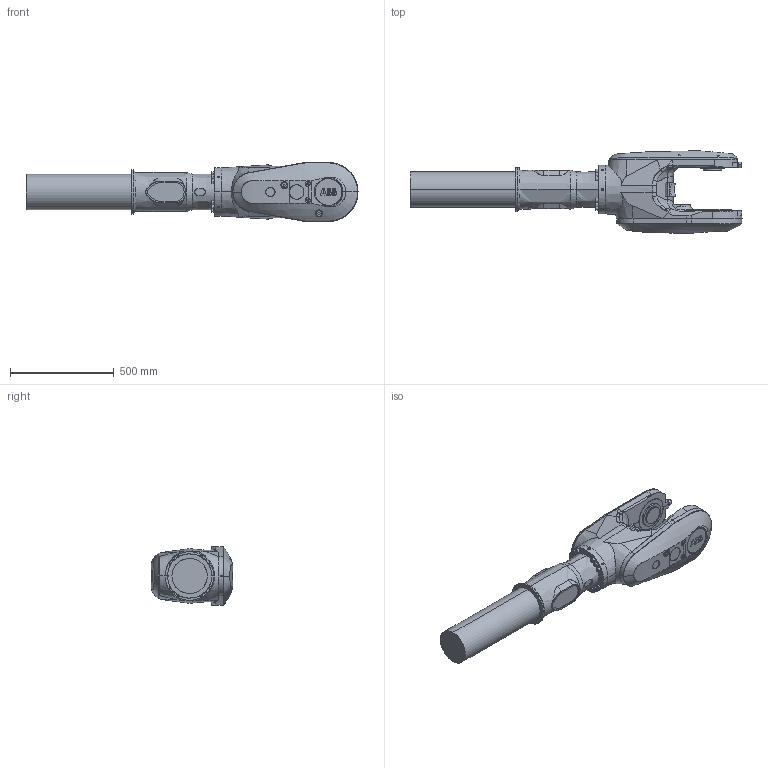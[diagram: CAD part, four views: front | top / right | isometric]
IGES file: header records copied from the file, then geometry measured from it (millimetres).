
Start section: SolidWorks IGES file using analytic representation for surfaces
Global section: file name: B:\Robotics\SEROP_PROJ\Product Development\DevelopmentProjects\RobCal\Design\CAD simuleringsmodeller\Till_RobotStudio\IRB6700-HL\IRB6700_235-265_IRC5_rev02\IRB6700_235-265_IRC5_rev02_IGES_j\IRB6700_235-265_IRC5_rev02_LINK04_CAD.IGS; native system: SolidWorks 2014; preprocessor: SolidWorks 2014; author: SEEMTHE; date: 160127.112456; units: millimetre
Bounding box: 1599.5 x 395 x 284 mm (x, y, z)
Surface area: 1432860.4 mm2 (no closed solid volume)
Topology: 0 solids, 0 shells, 747 faces, 12726 edges, 12700 vertices
Faces by surface type: bspline 454, revolution 293
